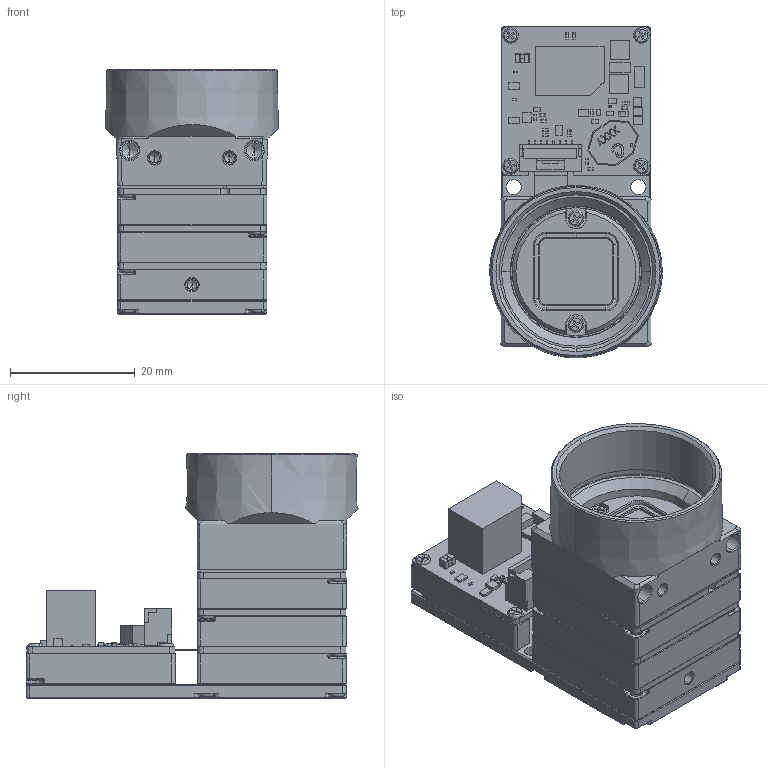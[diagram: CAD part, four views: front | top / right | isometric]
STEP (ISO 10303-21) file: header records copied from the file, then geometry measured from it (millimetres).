
FILE_DESCRIPTION (( 'STEP AP203' ), '1' );
FILE_NAME ('408-379-A_IX_180.STEP', '2023-03-02T07:42:59', ( '' ), ( '' ), 'SwSTEP 2.0', 'SolidWorks 2021', '' );
FILE_SCHEMA (( 'CONFIG_CONTROL_DESIGN' ));
Products named in the file (1): 408-379-A_IX_180
Bounding box: 27.72 x 53.29 x 39.35 mm (x, y, z)
Volume: 12152.5 mm3; surface area: 21784.2 mm2
Topology: 82 solids, 82 shells, 5362 faces, 13619 edges, 8322 vertices
Faces by surface type: plane 2973, cylinder 1344, cone 435, bspline 325, torus 195, sphere 90
Entity records: 165084 total; most frequent: CARTESIAN_POINT 37740, ORIENTED_EDGE 26794, DIRECTION 25929, EDGE_CURVE 13397, LINE 9243, VECTOR 9243, AXIS2_PLACEMENT_3D 8343, VERTEX_POINT 8312
